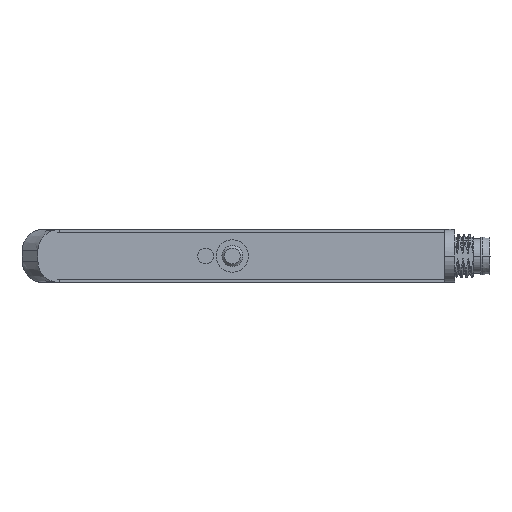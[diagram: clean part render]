
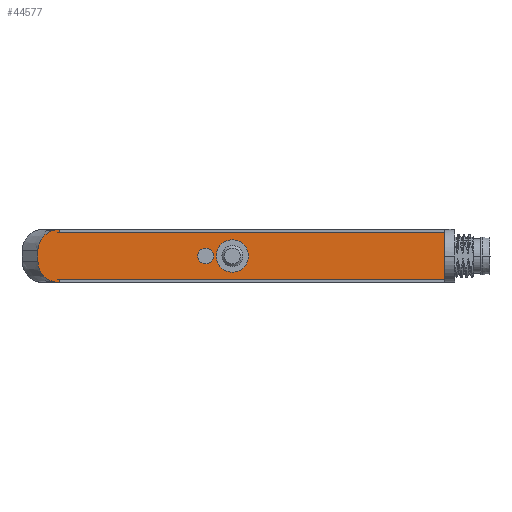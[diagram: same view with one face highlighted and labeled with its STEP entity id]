
A CAD part, left-side view. The second image highlights one B-rep face of the part: STEP entity #44577.
In plain terms, the highlighted planar face has unit normal (-1, 0, 0) as drawn and (0, 0, -1) by its records, which use the part's own axes.
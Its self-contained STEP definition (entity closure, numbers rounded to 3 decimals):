
#43554=CARTESIAN_POINT('',(3.15,-0.175,-0.75));
#43555=VERTEX_POINT('',#43554);
#43563=CARTESIAN_POINT('',(-2.95,-0.175,-0.75));
#43564=VERTEX_POINT('',#43563);
#43571=CARTESIAN_POINT('',(0.1,-0.175,-0.75));
#43572=DIRECTION('',(0.0,0.0,1.0));
#43573=DIRECTION('',(1.0,0.0,0.0));
#43574=AXIS2_PLACEMENT_3D('',#43571,#43572,#43573);
#43575=CIRCLE('',#43574,3.05);
#43576=EDGE_CURVE('',#43555,#43564,#43575,.T.);
#43672=CARTESIAN_POINT('',(3.6,-0.175,-0.75));
#43673=VERTEX_POINT('',#43672);
#43689=CARTESIAN_POINT('',(6.6,-0.175,-0.75));
#43690=VERTEX_POINT('',#43689);
#43697=CARTESIAN_POINT('',(5.1,-0.175,-0.75));
#43698=DIRECTION('',(0.0,0.0,1.0));
#43699=DIRECTION('',(-1.0,0.0,0.0));
#43700=AXIS2_PLACEMENT_3D('',#43697,#43698,#43699);
#43701=CIRCLE('',#43700,1.5);
#43702=EDGE_CURVE('',#43673,#43690,#43701,.T.);
#43714=CARTESIAN_POINT('',(32.7,4.225,-0.75));
#43715=VERTEX_POINT('',#43714);
#43728=CARTESIAN_POINT('',(32.7,4.825,-0.75));
#43729=VERTEX_POINT('',#43728);
#43736=CARTESIAN_POINT('',(32.7,4.225,-0.75));
#43737=DIRECTION('',(0.0,1.0,0.0));
#43738=VECTOR('',#43737,0.6);
#43739=LINE('',#43736,#43738);
#43740=EDGE_CURVE('',#43715,#43729,#43739,.T.);
#43775=CARTESIAN_POINT('',(30.6,4.225,-0.75));
#43776=VERTEX_POINT('',#43775);
#43777=CARTESIAN_POINT('',(30.6,4.225,-0.75));
#43778=DIRECTION('',(1.0,0.0,0.0));
#43779=VECTOR('',#43778,2.1);
#43780=LINE('',#43777,#43779);
#43781=EDGE_CURVE('',#43776,#43715,#43780,.T.);
#43907=CARTESIAN_POINT('',(5.1,-0.175,-0.75));
#43908=DIRECTION('',(0.0,0.0,1.0));
#43909=DIRECTION('',(-1.0,0.0,0.0));
#43910=AXIS2_PLACEMENT_3D('',#43907,#43908,#43909);
#43911=CIRCLE('',#43910,1.5);
#43912=EDGE_CURVE('',#43690,#43673,#43911,.T.);
#43940=CARTESIAN_POINT('',(32.7,-5.175,-0.75));
#43941=VERTEX_POINT('',#43940);
#43959=CARTESIAN_POINT('',(32.7,-4.55,-0.75));
#43960=VERTEX_POINT('',#43959);
#43967=CARTESIAN_POINT('',(32.7,-5.175,-0.75));
#43968=DIRECTION('',(0.0,1.0,0.0));
#43969=VECTOR('',#43968,0.625);
#43970=LINE('',#43967,#43969);
#43971=EDGE_CURVE('',#43941,#43960,#43970,.T.);
#44108=CARTESIAN_POINT('',(36.7,0.825,-0.75));
#44109=VERTEX_POINT('',#44108);
#44110=CARTESIAN_POINT('',(32.7,4.825,-0.75));
#44111=CARTESIAN_POINT('',(33.224,4.825,-0.75));
#44112=CARTESIAN_POINT('',(33.747,4.721,-0.75));
#44113=CARTESIAN_POINT('',(34.714,4.32,-0.75));
#44114=CARTESIAN_POINT('',(35.158,4.024,-0.75));
#44115=CARTESIAN_POINT('',(35.899,3.283,-0.75));
#44116=CARTESIAN_POINT('',(36.195,2.839,-0.75));
#44117=CARTESIAN_POINT('',(36.596,1.872,-0.75));
#44118=CARTESIAN_POINT('',(36.7,1.349,-0.75));
#44119=CARTESIAN_POINT('',(36.7,0.825,-0.75));
#44120=B_SPLINE_CURVE_WITH_KNOTS('',3,(#44110,#44111,#44112,#44113,#44114,#44115,#44116,#44117,#44118,#44119),.UNSPECIFIED.,.F.,.U.,(4,2,2,2,4),(0.0,0.25,0.5,0.75,1.0),.UNSPECIFIED.);
#44121=EDGE_CURVE('',#43729,#44109,#44120,.T.);
#44140=CARTESIAN_POINT('',(36.7,-1.175,-0.75));
#44141=VERTEX_POINT('',#44140);
#44142=CARTESIAN_POINT('',(36.7,0.825,-0.75));
#44143=DIRECTION('',(0.0,-1.0,0.0));
#44144=VECTOR('',#44143,2.);
#44145=LINE('',#44142,#44144);
#44146=EDGE_CURVE('',#44109,#44141,#44145,.T.);
#44201=CARTESIAN_POINT('',(36.7,-1.175,-0.75));
#44202=CARTESIAN_POINT('',(36.7,-1.699,-0.75));
#44203=CARTESIAN_POINT('',(36.596,-2.222,-0.75));
#44204=CARTESIAN_POINT('',(36.195,-3.189,-0.75));
#44205=CARTESIAN_POINT('',(35.899,-3.633,-0.75));
#44206=CARTESIAN_POINT('',(35.158,-4.374,-0.75));
#44207=CARTESIAN_POINT('',(34.714,-4.67,-0.75));
#44208=CARTESIAN_POINT('',(33.747,-5.071,-0.75));
#44209=CARTESIAN_POINT('',(33.224,-5.175,-0.75));
#44210=CARTESIAN_POINT('',(32.7,-5.175,-0.75));
#44211=B_SPLINE_CURVE_WITH_KNOTS('',3,(#44201,#44202,#44203,#44204,#44205,#44206,#44207,#44208,#44209,#44210),.UNSPECIFIED.,.F.,.U.,(4,2,2,2,4),(0.0,0.25,0.5,0.75,1.0),.UNSPECIFIED.);
#44212=EDGE_CURVE('',#44141,#43941,#44211,.T.);
#44227=CARTESIAN_POINT('',(30.6,4.2,-0.75));
#44228=VERTEX_POINT('',#44227);
#44229=CARTESIAN_POINT('',(30.6,4.225,-0.75));
#44230=DIRECTION('',(0.,-1.0,0.0));
#44231=VECTOR('',#44230,0.025);
#44232=LINE('',#44229,#44231);
#44233=EDGE_CURVE('',#43776,#44228,#44232,.T.);
#44274=CARTESIAN_POINT('',(-39.8,-4.55,-0.75));
#44275=VERTEX_POINT('',#44274);
#44282=CARTESIAN_POINT('',(32.7,-4.55,-0.75));
#44283=DIRECTION('',(-1.0,0.0,0.0));
#44284=VECTOR('',#44283,72.5);
#44285=LINE('',#44282,#44284);
#44286=EDGE_CURVE('',#43960,#44275,#44285,.T.);
#44384=CARTESIAN_POINT('',(0.1,-0.175,-0.75));
#44385=DIRECTION('',(0.0,0.0,1.0));
#44386=DIRECTION('',(1.0,0.0,0.0));
#44387=AXIS2_PLACEMENT_3D('',#44384,#44385,#44386);
#44388=CIRCLE('',#44387,3.05);
#44389=EDGE_CURVE('',#43564,#43555,#44388,.T.);
#44517=CARTESIAN_POINT('',(-39.8,4.2,-0.75));
#44518=VERTEX_POINT('',#44517);
#44525=CARTESIAN_POINT('',(-39.8,-4.55,-0.75));
#44526=DIRECTION('',(0.0,1.0,0.0));
#44527=VECTOR('',#44526,8.75);
#44528=LINE('',#44525,#44527);
#44529=EDGE_CURVE('',#44275,#44518,#44528,.T.);
#44541=CARTESIAN_POINT('',(-39.8,4.2,-0.75));
#44542=DIRECTION('',(1.0,0.0,0.0));
#44543=VECTOR('',#44542,70.4);
#44544=LINE('',#44541,#44543);
#44545=EDGE_CURVE('',#44518,#44228,#44544,.T.);
#44552=CARTESIAN_POINT('',(-43.625,-5.675,-0.75));
#44553=DIRECTION('',(0.0,0.0,1.0));
#44554=DIRECTION('',(1.0,0.0,0.0));
#44555=AXIS2_PLACEMENT_3D('',#44552,#44553,#44554);
#44556=PLANE('',#44555);
#44557=ORIENTED_EDGE('',*,*,#43740,.T.);
#44558=ORIENTED_EDGE('',*,*,#44121,.T.);
#44559=ORIENTED_EDGE('',*,*,#44146,.T.);
#44560=ORIENTED_EDGE('',*,*,#44212,.T.);
#44561=ORIENTED_EDGE('',*,*,#43971,.T.);
#44562=ORIENTED_EDGE('',*,*,#44286,.T.);
#44563=ORIENTED_EDGE('',*,*,#44529,.T.);
#44564=ORIENTED_EDGE('',*,*,#44545,.T.);
#44565=ORIENTED_EDGE('',*,*,#44233,.F.);
#44566=ORIENTED_EDGE('',*,*,#43781,.T.);
#44567=EDGE_LOOP('',(#44557,#44558,#44559,#44560,#44561,#44562,#44563,#44564,#44565,#44566));
#44568=FACE_OUTER_BOUND('',#44567,.T.);
#44569=ORIENTED_EDGE('',*,*,#43702,.T.);
#44570=ORIENTED_EDGE('',*,*,#43912,.T.);
#44571=EDGE_LOOP('',(#44569,#44570));
#44572=FACE_BOUND('',#44571,.T.);
#44573=ORIENTED_EDGE('',*,*,#43576,.T.);
#44574=ORIENTED_EDGE('',*,*,#44389,.T.);
#44575=EDGE_LOOP('',(#44573,#44574));
#44576=FACE_BOUND('',#44575,.T.);
#44577=ADVANCED_FACE('',(#44568,#44572,#44576),#44556,.F.);
